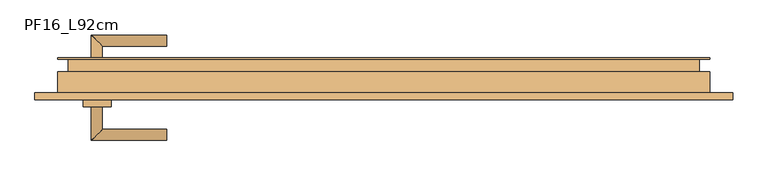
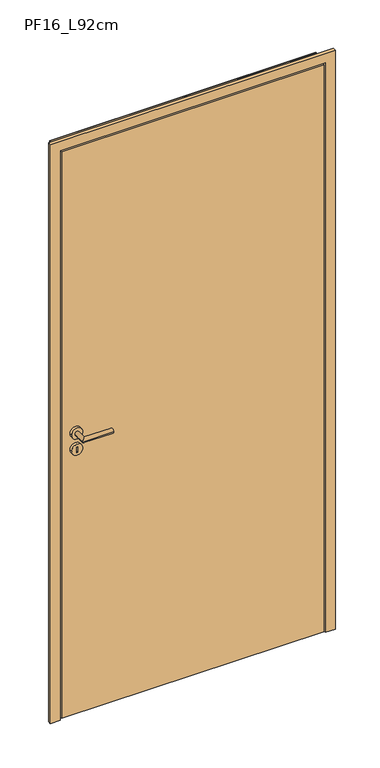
"""IFC4 building model written with IfcOpenShell, lengths in millimetres: door geometry, FDE_PF15_PF16_PF17_PortaemChapadeFerro : PF16_L92cm."""

import ifcopenshell
import ifcopenshell.guid

model = None  # the IFC model being written
_history = None  # IfcOwnerHistory: only IFC2X3 demands one
_inside = {}  # id of a spatial element -> (the spatial element, [elements in it])
_under = {}  # id of a project, library or spatial element -> (it, [spatial elements below it])
_declared = {}  # id of a project -> (the project, [libraries it declares])
_typed = {}  # id of a type object -> (the type object, [elements of that type])
_made_of = {}  # id of a material, layer set ... -> (it, [elements and type objects made of it])


def new_model(schema):
    """Start an empty IFC model of exactly this schema.

    Asked for "IFC4X3", IfcOpenShell would pick the latest addendum, in which some entities
    have other attributes; the version numbers below select the first issue.
    IFC2X3 requires an IfcOwnerHistory on every rooted entity: one is made here for all.
    """
    global model, _history
    if schema == "IFC4X3":
        model = ifcopenshell.file(schema_version=(4, 3, 0, 0))
    else:
        model = ifcopenshell.file(schema=schema)
    _inside.clear()
    _under.clear()
    _declared.clear()
    _typed.clear()
    _made_of.clear()
    _history = None
    if model.schema == "IFC2X3":
        org = make("IfcOrganization", Name="unknown")
        user = make(
            "IfcPersonAndOrganization",
            ThePerson=make("IfcPerson", FamilyName="unknown"),
            TheOrganization=org,
        )
        app = make(
            "IfcApplication",
            ApplicationDeveloper=org,
            Version="unknown",
            ApplicationFullName="unknown",
            ApplicationIdentifier="unknown",
        )
        _history = make(
            "IfcOwnerHistory",
            OwningUser=user,
            OwningApplication=app,
            ChangeAction="ADDED",
            CreationDate=0,
        )
    return model


def make(cls, **values):
    """One entity of the class cls with the attributes given. An attribute that is None is left unset."""
    return model.create_entity(
        cls, **{name: value for name, value in values.items() if value is not None}
    )


def rooted(cls, **values):
    """An entity with a GlobalId (a new one), such as an element, a storey or a relation."""
    return make(cls, GlobalId=ifcopenshell.guid.new(), OwnerHistory=_history, **values)


def si_unit(unit_type, name, prefix=None):
    """IfcSIUnit, for example si_unit("LENGTHUNIT", "METRE", prefix="MILLI")."""
    return make("IfcSIUnit", UnitType=unit_type, Prefix=prefix, Name=name)


def assignment(units):
    """IfcUnitAssignment: the units of a project."""
    return None if units is None else make("IfcUnitAssignment", Units=units)


def point(xyz):
    """IfcCartesianPoint."""
    return None if xyz is None else make("IfcCartesianPoint", Coordinates=xyz)


def direction(xyz):
    """IfcDirection."""
    return None if xyz is None else make("IfcDirection", DirectionRatios=xyz)


def frame(location, z_axis=None, x_axis=None):
    """IfcAxis2Placement3D, a coordinate frame: its origin and axes. An axis left out is left unset."""
    return make(
        "IfcAxis2Placement3D",
        Location=point(location),
        Axis=direction(z_axis),
        RefDirection=direction(x_axis),
    )


def frame_2d(location, x_axis=None):
    """IfcAxis2Placement2D, a coordinate frame in the plane: its origin and x axis."""
    return make(
        "IfcAxis2Placement2D", Location=point(location), RefDirection=direction(x_axis)
    )


def origin():
    """The frame at (0, 0, 0) with its axes left unset."""
    return frame((0.0, 0.0, 0.0))


def place(relative_to, where):
    """IfcLocalPlacement: puts the frame where relative to a parent placement (None: the world)."""
    return make(
        "IfcLocalPlacement", PlacementRelTo=relative_to, RelativePlacement=where
    )


def context(
    kind, dimensions, precision=None, world=None, true_north=None, identifier=None
):
    """IfcGeometricRepresentationContext, for example the 3D "Model" context."""
    return make(
        "IfcGeometricRepresentationContext",
        ContextIdentifier=identifier,
        ContextType=kind,
        CoordinateSpaceDimension=dimensions,
        Precision=precision,
        WorldCoordinateSystem=world,
        TrueNorth=true_north,
    )


def project(units=None, contexts=None):
    """IfcProject with its units and contexts."""
    return rooted(
        "IfcProject",
        Name="project",
        RepresentationContexts=contexts,
        UnitsInContext=assignment(units),
    )


def spatial(cls, under=None, at=None, **own):
    """A site, building, storey or space (cls), placed at a placement, below another one or the project."""
    s = rooted(cls, ObjectPlacement=at, **own)
    if under is not None:
        _under.setdefault(under.id(), (under, []))[1].append(s)
    return s


def polyline(points):
    """IfcPolyline through the points."""
    return make("IfcPolyline", Points=[point(p) for p in points])


def circle_curve(where, radius):
    """IfcCircle in the frame where."""
    return make("IfcCircle", Position=where, Radius=radius)


def ellipse_curve(where, semi_axis1, semi_axis2):
    """IfcEllipse in the frame where."""
    return make(
        "IfcEllipse", Position=where, SemiAxis1=semi_axis1, SemiAxis2=semi_axis2
    )


def trimmed(basis, trim1, trim2, sense, master):
    """IfcTrimmedCurve: the piece of a basis curve between two trims."""
    return make(
        "IfcTrimmedCurve",
        BasisCurve=basis,
        Trim1=trim1,
        Trim2=trim2,
        SenseAgreement=sense,
        MasterRepresentation=master,
    )


def segment(curve, same_sense, transition):
    """IfcCompositeCurveSegment."""
    return make(
        "IfcCompositeCurveSegment",
        Transition=transition,
        SameSense=same_sense,
        ParentCurve=curve,
    )


def composite_curve(segments, self_intersect=None):
    """IfcCompositeCurve: segments joined end to end."""
    return make("IfcCompositeCurve", Segments=segments, SelfIntersect=self_intersect)


def outline(outer, holes=None, kind="AREA"):
    """IfcArbitraryClosedProfileDef: a profile drawn as a closed curve; with holes, ...WithVoids."""
    if holes is None:
        return make("IfcArbitraryClosedProfileDef", ProfileType=kind, OuterCurve=outer)
    return make(
        "IfcArbitraryProfileDefWithVoids",
        ProfileType=kind,
        OuterCurve=outer,
        InnerCurves=holes,
    )


def extrude(swept, where, along, depth):
    """IfcExtrudedAreaSolid: the profile swept, set in the frame where, extruded along a direction by depth."""
    return make(
        "IfcExtrudedAreaSolid",
        SweptArea=swept,
        Position=where,
        ExtrudedDirection=direction(along),
        Depth=depth,
    )


def faces_of(points, faces, orient=None, outer=None):
    """IfcFace entities. A face is a list of loops; a loop is a list of indices into points, from 0.

    orient and outer hold one flag for each loop. By default every Orientation is true, the
    first loop of a face is its IfcFaceOuterBound and the others are IfcFaceBound.
    """
    made = []
    for i, loops in enumerate(faces):
        bounds = []
        for j, loop in enumerate(loops):
            is_outer = j == 0 if outer is None else outer[i][j]
            bounds.append(
                make(
                    "IfcFaceOuterBound" if is_outer else "IfcFaceBound",
                    Bound=make("IfcPolyLoop", Polygon=[points[k] for k in loop]),
                    Orientation=True if orient is None else orient[i][j],
                )
            )
        made.append(make("IfcFace", Bounds=bounds))
    return made


def faceted_brep(points, faces, orient=None, outer=None, voids=None):
    """IfcFacetedBrep: a solid bounded by flat faces; with voids (closed shells), ...WithVoids."""
    shared = [point(p) for p in points]
    hull = make("IfcClosedShell", CfsFaces=faces_of(shared, faces, orient, outer))
    if voids is None:
        return make("IfcFacetedBrep", Outer=hull)
    return make(
        "IfcFacetedBrepWithVoids",
        Outer=hull,
        Voids=[
            make(cls, CfsFaces=faces_of(shared, fs, o, b)) for cls, fs, o, b in voids
        ],
    )


def shape(context_of_items, identifier, shape_type, items):
    """IfcShapeRepresentation: the items that make up one representation, for example the "Body"."""
    return make(
        "IfcShapeRepresentation",
        ContextOfItems=context_of_items,
        RepresentationIdentifier=identifier,
        RepresentationType=shape_type,
        Items=items,
    )


def source(mapping_origin, context_of_items, identifier, shape_type, items):
    """IfcRepresentationMap: a shape defined once, which mapped items show again and again."""
    return make(
        "IfcRepresentationMap",
        MappingOrigin=mapping_origin,
        MappedRepresentation=shape(context_of_items, identifier, shape_type, items),
    )


def transform(
    local_origin,
    x_axis=None,
    y_axis=None,
    z_axis=None,
    scale=None,
    scale2=None,
    scale3=None,
    uniform=True,
):
    """IfcCartesianTransformationOperator3D, or its non-uniform kind. x_axis, y_axis, z_axis: its Axis1, 2, 3."""
    if uniform:
        return make(
            "IfcCartesianTransformationOperator3D",
            Axis1=direction(x_axis),
            Axis2=direction(y_axis),
            LocalOrigin=point(local_origin),
            Scale=scale,
            Axis3=direction(z_axis),
        )
    return make(
        "IfcCartesianTransformationOperator3DnonUniform",
        Axis1=direction(x_axis),
        Axis2=direction(y_axis),
        LocalOrigin=point(local_origin),
        Scale=scale,
        Axis3=direction(z_axis),
        Scale2=scale2,
        Scale3=scale3,
    )


def mapped(mapping_source, mapping_target):
    """IfcMappedItem: shows the shape of a source again, moved by a transform."""
    return make(
        "IfcMappedItem", MappingSource=mapping_source, MappingTarget=mapping_target
    )


def made_of(thing, what):
    """Note that an element or type object is made of a material, layer set ...; save() writes the relation."""
    if what is not None:
        _made_of.setdefault(what.id(), (what, []))[1].append(thing)
    return thing


def element(
    cls,
    number,
    at=None,
    inside=None,
    cuts=None,
    type_object=None,
    material=None,
    context=None,
    identifier="Body",
    shape_type=None,
    held_by="IfcProductDefinitionShape",
    body=None,
    shapes=None,
    **own,
):
    """One element of the class cls, such as IfcWall. Its Tag is "e" and its number.

    at: its placement. inside: the storey or other place that contains it. cuts: it is an
    opening in that element (IfcRelVoidsElement). A single representation is given by context,
    identifier, shape_type and body (its items); several are given by shapes. held_by: the class
    of the entity that holds the representations. save() writes the other relations.
    """
    e = rooted(cls, Tag="e%d" % number, ObjectPlacement=at, **own)
    if body is not None:
        shapes = [shape(context, identifier, shape_type, body)]
    if shapes is not None:
        e.Representation = make(held_by, Representations=shapes)
    if inside is not None:
        _inside.setdefault(inside.id(), (inside, []))[1].append(e)
    if cuts is not None:
        rooted(
            "IfcRelVoidsElement", RelatingBuildingElement=cuts, RelatedOpeningElement=e
        )
    if type_object is not None:
        _typed.setdefault(type_object.id(), (type_object, []))[1].append(e)
    return made_of(e, material)


def aggregate(whole, parts):
    """IfcRelAggregates: a whole, such as a stair, and the parts it consists of."""
    return rooted("IfcRelAggregates", RelatingObject=whole, RelatedObjects=parts)


def save(model, path):
    """Write the relations noted so far, then the file.

    IfcRelAggregates (storeys below a building ...), IfcRelContainedInSpatialStructure (elements
    in a storey), IfcRelDefinesByType, IfcRelAssociatesMaterial and IfcRelDeclares: one each for
    every whole, place, type object, material and project.
    """
    for whole, parts in _under.values():
        aggregate(whole, parts)
    for where, things in _inside.values():
        rooted(
            "IfcRelContainedInSpatialStructure",
            RelatedElements=things,
            RelatingStructure=where,
        )
    for kind, things in _typed.values():
        rooted("IfcRelDefinesByType", RelatedObjects=things, RelatingType=kind)
    for what, things in _made_of.values():
        rooted("IfcRelAssociatesMaterial", RelatedObjects=things, RelatingMaterial=what)
    for by, libraries in _declared.values():
        rooted("IfcRelDeclares", RelatingContext=by, RelatedDefinitions=libraries)
    model.write(path)


def plane_surface(at):
    """IfcPlane: the flat surface through the origin of the frame at, square to its z axis."""
    return make("IfcPlane", Position=at)


def cylinder_surface(at, radius):
    """IfcCylindricalSurface: all points at the distance radius from the z axis of the frame at."""
    return make("IfcCylindricalSurface", Position=at, Radius=radius)


def advanced_brep(points, edges, surfaces, faces):
    """IfcAdvancedBrep: a solid bounded by faces that lie on surfaces and meet in shared edges.

    An edge is (start, end): straight between two places in points (the first is 0);
    or (start, end, curve); or (start, end, curve, False) where it runs against its curve.
    A face is (place in surfaces, loops), or (place, loops, False) where it looks against
    its surface's normal. A loop lists edges by number (the first is 1), with a minus sign
    where the edge is run from its end to its start. The first loop is the outer one.
    """
    corners = [point(p) for p in points]
    vertices = [make("IfcVertexPoint", VertexGeometry=c) for c in corners]
    made = []
    for start, end, *more in edges:
        made.append(
            make(
                "IfcEdgeCurve",
                EdgeStart=vertices[start],
                EdgeEnd=vertices[end],
                EdgeGeometry=more[0] if more else make("IfcPolyline", Points=[corners[start], corners[end]]),
                SameSense=more[1] if len(more) > 1 else True,
            )
        )
    hull = []
    for where, loops, *sense in faces:
        bounds = []
        for j, loop in enumerate(loops):
            ring = [make("IfcOrientedEdge", EdgeElement=made[abs(k) - 1], Orientation=k > 0) for k in loop]
            bounds.append(
                make(
                    "IfcFaceOuterBound" if j == 0 else "IfcFaceBound",
                    Bound=make("IfcEdgeLoop", EdgeList=ring),
                    Orientation=True,
                )
            )
        hull.append(make("IfcAdvancedFace", Bounds=bounds, FaceSurface=surfaces[where], SameSense=sense[0] if sense else True))
    return make("IfcAdvancedBrep", Outer=make("IfcClosedShell", CfsFaces=hull))


def pf16_l92cm_e792644b(model_context):
    return source(origin(), model_context, "Body", "SolidModel", [
        extrude(outline(composite_curve([segment(trimmed(circle_curve(frame_2d((989.994466, -411.0)), 20.0), [point((989.994466, -431.0))], [point((989.994466, -391.0))], False, "CARTESIAN"), True, "CONTINUOUS"), segment(trimmed(circle_curve(frame_2d((989.994466, -411.0)), 20.0), [point((989.994466, -391.0))], [point((989.994466, -431.0))], False, "CARTESIAN"), True, "CONTINUOUS")], self_intersect=False), holes=[polyline([(1000.1515067, -408.7045566), (980.1515067, -408.7045566), (980.1515067, -413.7045566), (1000.1515067, -413.7045566), (1000.1515067, -408.7045566)])]), frame((0.0, -45.0, 0.0), z_axis=(0.0, 1.0, 0.0), x_axis=(0.0, 0.0, 1.0)), (0.0, 0.0, 1.0), 10.0),
        advanced_brep(
        [(-403.2045566, -45.0, 1050.0), (-419.2045566, -45.0, 1050.0), (-403.2045566, -77.0, 1050.0), (-419.2045566, -93.0, 1050.0), (-311.2045566, -77.0, 1050.0), (-311.2045566, -93.0, 1050.0)],
        [
            (0, 1, circle_curve(frame((-411.2045566, -45.0, 1050.0), z_axis=(0.0, 1.0, 0.0), x_axis=(-1.0, 0.0, 0.0)), 8.0)),
            (1, 0, circle_curve(frame((-411.2045566, -45.0, 1050.0), z_axis=(0.0, 1.0, 0.0), x_axis=(-1.0, 0.0, 0.0)), 8.0)),
            (0, 2),
            (2, 3, ellipse_curve(frame((-411.2045566, -85.0, 1050.0), z_axis=(-0.707106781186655, 0.7071067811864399, 0.0), x_axis=(0.7071067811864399, 0.7071067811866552, 0.0)), 11.3137085, 8.0)),
            (3, 1),
            (3, 2, ellipse_curve(frame((-411.2045566, -85.0, 1050.0), z_axis=(-0.707106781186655, 0.7071067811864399, 0.0), x_axis=(0.7071067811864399, 0.7071067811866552, 0.0)), 11.3137085, 8.0)),
            (4, 5, circle_curve(frame((-311.2045566, -85.0, 1050.0), z_axis=(1.0, 0.0, 0.0), x_axis=(0.0, -1.0, 0.0)), 8.0)),
            (5, 4, circle_curve(frame((-311.2045566, -85.0, 1050.0), z_axis=(1.0, 0.0, 0.0), x_axis=(0.0, -1.0, 0.0)), 8.0)),
            (2, 4),
            (5, 3),
        ],
        [
            plane_surface(frame((-411.2045566, -45.0, 1050.0), z_axis=(0.0, 1.0, 0.0), x_axis=(0.0, 0.0, 1.0))),
            cylinder_surface(frame((-411.2045566, -45.0, 1050.0), z_axis=(0.0, 1.0, 0.0), x_axis=(-1.0, 0.0, 0.0)), 8.0),
            plane_surface(frame((-311.2045566, -85.0, 1050.0), z_axis=(1.0, 0.0, 0.0), x_axis=(0.0, 0.0, 1.0))),
            cylinder_surface(frame((-411.2045566, -85.0, 1050.0), z_axis=(-1.0, 0.0, 0.0), x_axis=(0.0, -1.0, 0.0)), 8.0),
        ],
        [
            (0, [[1, 2]]),
            (1, [[3, 4, 5, -1]]),
            (1, [[-5, 6, -3, -2]]),
            (2, [[7, 8]]),
            (3, [[9, -8, 10, -4]]),
            (3, [[-10, -7, -9, -6]]),
        ],
    ),
        extrude(outline(composite_curve([segment(trimmed(circle_curve(frame_2d((1050.0, -411.0)), 20.0), [point((1050.0, -431.0))], [point((1050.0, -391.0))], False, "CARTESIAN"), True, "CONTINUOUS"), segment(trimmed(circle_curve(frame_2d((1050.0, -411.0)), 20.0), [point((1050.0, -391.0))], [point((1050.0, -431.0))], False, "CARTESIAN"), True, "CONTINUOUS")], self_intersect=False)), frame((0.0, -45.0, 0.0), z_axis=(0.0, 1.0, 0.0), x_axis=(0.0, 0.0, 1.0)), (0.0, 0.0, 1.0), 10.0),
        extrude(outline(composite_curve([segment(trimmed(circle_curve(frame_2d((989.994466, -411.0)), 20.0), [point((989.994466, -431.0))], [point((989.994466, -391.0))], False, "CARTESIAN"), True, "CONTINUOUS"), segment(trimmed(circle_curve(frame_2d((989.994466, -411.0)), 20.0), [point((989.994466, -391.0))], [point((989.994466, -431.0))], False, "CARTESIAN"), True, "CONTINUOUS")], self_intersect=False), holes=[polyline([(1000.1515067, -408.7045566), (980.1515067, -408.7045566), (980.1515067, -413.7045566), (1000.1515067, -413.7045566), (1000.1515067, -408.7045566)])]), frame((0.0, 0.0, 0.0), z_axis=(0.0, 1.0, 0.0), x_axis=(0.0, 0.0, 1.0)), (0.0, 0.0, 1.0), 10.0),
        advanced_brep(
        [(-419.2045566, 10.0, 1050.0), (-403.2045566, 10.0, 1050.0), (-403.2045566, 42.0, 1050.0), (-419.2045566, 58.0, 1050.0), (-311.2045566, 58.0, 1050.0), (-311.2045566, 42.0, 1050.0)],
        [
            (0, 1, circle_curve(frame((-411.2045566, 10.0, 1050.0), z_axis=(0.0, -1.0, 0.0), x_axis=(1.0, 0.0, 0.0)), 8.0)),
            (1, 0, circle_curve(frame((-411.2045566, 10.0, 1050.0), z_axis=(0.0, -1.0, 0.0), x_axis=(1.0, 0.0, 0.0)), 8.0)),
            (1, 2),
            (2, 3, ellipse_curve(frame((-411.2045566, 50.0, 1050.0), z_axis=(-0.7071067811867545, -0.7071067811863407, 0.0), x_axis=(0.7071067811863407, -0.7071067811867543, 0.0)), 11.3137085, 8.0)),
            (3, 0),
            (3, 2, ellipse_curve(frame((-411.2045566, 50.0, 1050.0), z_axis=(-0.7071067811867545, -0.7071067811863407, 0.0), x_axis=(0.7071067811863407, -0.7071067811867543, 0.0)), 11.3137085, 8.0)),
            (4, 5, circle_curve(frame((-311.2045566, 50.0, 1050.0), z_axis=(1.0, 0.0, 0.0), x_axis=(0.0, -1.0, 0.0)), 8.0)),
            (5, 4, circle_curve(frame((-311.2045566, 50.0, 1050.0), z_axis=(1.0, 0.0, 0.0), x_axis=(0.0, -1.0, 0.0)), 8.0)),
            (2, 5),
            (4, 3),
        ],
        [
            plane_surface(frame((-411.2045566, 10.0, 1050.0), z_axis=(0.0, -1.0, 0.0), x_axis=(0.0, 0.0, 1.0))),
            cylinder_surface(frame((-411.2045566, 10.0, 1050.0), z_axis=(0.0, -1.0, 0.0), x_axis=(1.0, 0.0, 0.0)), 8.0),
            plane_surface(frame((-311.2045566, 50.0, 1050.0), z_axis=(1.0, 0.0, 0.0), x_axis=(0.0, 0.0, 1.0))),
            cylinder_surface(frame((-411.2045566, 50.0, 1050.0), z_axis=(-1.0, 0.0, 0.0), x_axis=(0.0, -1.0, 0.0)), 8.0),
        ],
        [
            (0, [[1, 2]]),
            (1, [[3, 4, 5, -2]]),
            (1, [[-5, 6, -3, -1]]),
            (2, [[7, 8]]),
            (3, [[9, -7, 10, -4]]),
            (3, [[-10, -8, -9, -6]]),
        ],
    ),
        extrude(outline(composite_curve([segment(trimmed(circle_curve(frame_2d((1050.0, -411.0)), 20.0), [point((1050.0, -431.0))], [point((1050.0, -391.0))], False, "CARTESIAN"), True, "CONTINUOUS"), segment(trimmed(circle_curve(frame_2d((1050.0, -411.0)), 20.0), [point((1050.0, -391.0))], [point((1050.0, -431.0))], False, "CARTESIAN"), True, "CONTINUOUS")], self_intersect=False)), frame((0.0, 0.0, 0.0), z_axis=(0.0, 1.0, 0.0), x_axis=(0.0, 0.0, 1.0)), (0.0, 0.0, 1.0), 10.0),
        extrude(outline(polyline([(460.0, -35.0), (-460.0, -35.0), (-460.0, 0.0), (460.0, 0.0), (460.0, -35.0)])), frame((0.0, 0.0, 5.0), z_axis=(0.0, 0.0, 1.0), x_axis=(1.0, 0.0, 0.0)), (0.0, 0.0, 1.0), 2100.0),
        faceted_brep([(500.0, -35.0, 0.0), (465.0, -35.0, 0.0), (465.0, 3.0, 0.0), (450.0, 3.0, 0.0), (450.0, 25.0, 0.0), (467.0, 25.0, 0.0), (467.0, 23.0, 0.0), (452.0, 23.0, 0.0), (452.0, 5.0, 0.0), (467.0, 5.0, 0.0), (467.0, -33.0, 0.0), (498.0, -33.0, 0.0), (498.0, -25.0, 0.0), (500.0, -25.0, 0.0), (500.0, -25.0, 2145.0), (500.0, -35.0, 2145.0), (498.0, -25.0, 2143.0), (-498.0, -25.0, 2143.0), (-498.0, -25.0, 0.0), (-500.0, -25.0, 0.0), (-500.0, -25.0, 2145.0), (498.0, -33.0, 2143.0), (467.0, -33.0, 2112.0), (-467.0, -33.0, 2112.0), (-467.0, -33.0, 0.0), (-498.0, -33.0, 0.0), (-498.0, -33.0, 2143.0), (467.0, 5.0, 2112.0), (452.0, 5.0, 2097.0), (-452.0, 5.0, 2097.0), (-452.0, 5.0, 0.0), (-467.0, 5.0, 0.0), (-467.0, 5.0, 2112.0), (452.0, 23.0, 2097.0), (467.0, 23.0, 2112.0), (-467.0, 23.0, 2112.0), (-467.0, 23.0, 0.0), (-452.0, 23.0, 0.0), (-452.0, 23.0, 2097.0), (467.0, 25.0, 2112.0), (450.0, 25.0, 2095.0), (-450.0, 25.0, 2095.0), (-450.0, 25.0, 0.0), (-467.0, 25.0, 0.0), (-467.0, 25.0, 2112.0), (450.0, 3.0, 2095.0), (465.0, 3.0, 2110.0), (-465.0, 3.0, 2110.0), (-465.0, 3.0, 0.0), (-450.0, 3.0, 0.0), (-450.0, 3.0, 2095.0), (465.0, -35.0, 2110.0), (-500.0, -35.0, 2145.0), (-500.0, -35.0, 0.0), (-465.0, -35.0, 0.0), (-465.0, -35.0, 2110.0)], [[[0, 1, 2, 3, 4, 5, 6, 7, 8, 9, 10, 11, 12, 13]], [[13, 14, 15, 0]], [[12, 16, 17, 18, 19, 20, 14, 13]], [[11, 21, 16, 12]], [[10, 22, 23, 24, 25, 26, 21, 11]], [[9, 27, 22, 10]], [[8, 28, 29, 30, 31, 32, 27, 9]], [[7, 33, 28, 8]], [[6, 34, 35, 36, 37, 38, 33, 7]], [[5, 39, 34, 6]], [[4, 40, 41, 42, 43, 44, 39, 5]], [[3, 45, 40, 4]], [[2, 46, 47, 48, 49, 50, 45, 3]], [[1, 51, 46, 2]], [[0, 15, 52, 53, 54, 55, 51, 1]], [[20, 19, 53, 52]], [[53, 19, 18, 25, 24, 31, 30, 37, 36, 43, 42, 49, 48, 54]], [[26, 25, 18, 17]], [[32, 31, 24, 23]], [[38, 37, 30, 29]], [[44, 43, 36, 35]], [[50, 49, 42, 41]], [[55, 54, 48, 47]], [[14, 20, 52, 15]], [[21, 26, 17, 16]], [[27, 32, 23, 22]], [[33, 38, 29, 28]], [[39, 44, 35, 34]], [[45, 50, 41, 40]], [[51, 55, 47, 46]]]),
    ])


if __name__ == "__main__":
    model = new_model("IFC4")
    model_context = context("Model", 3, world=origin())
    ifc_project = project(units=[si_unit("LENGTHUNIT", "METRE", prefix="MILLI")], contexts=[model_context])
    site = spatial("IfcSite", under=ifc_project)
    building = spatial("IfcBuilding", under=site)
    placement = place(None, origin())
    pf16_l92cm_shape = pf16_l92cm_e792644b(model_context)
    element("IfcDoor", 1, ObjectType="FDE_PF15_PF16_PF17_PortaemChapadeFerro : PF16_L92cm", at=placement, inside=building, context=model_context, shape_type="MappedRepresentation", body=[
        mapped(pf16_l92cm_shape, transform((0.0, 0.0, 0.0), x_axis=(1.0, 0.0, 0.0), y_axis=(0.0, 1.0, 0.0), z_axis=(0.0, 0.0, 1.0))),
    ])
    save(model, "model.ifc")
